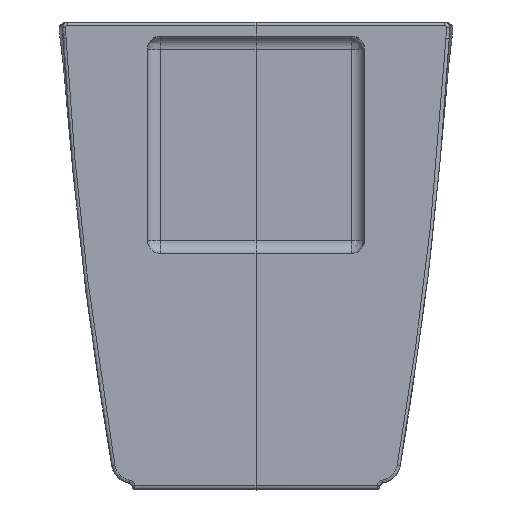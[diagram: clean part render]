
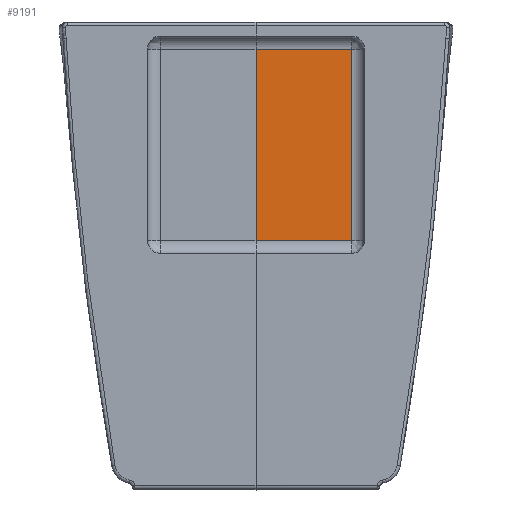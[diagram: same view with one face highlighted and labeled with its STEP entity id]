
A CAD part, top view. The second image highlights one B-rep face of the part: STEP entity #9191.
In plain terms, the highlighted planar face has unit normal (0, 0, 1) as drawn and (-1, 0, 0) by its records, which use the part's own axes.
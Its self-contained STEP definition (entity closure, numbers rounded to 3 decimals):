
#1966 = CARTESIAN_POINT ( 'NONE',  ( 100., 0., 0. ) ) ;
#2307 = DIRECTION ( 'NONE',  ( 0., 1., 0. ) ) ;
#2556 = AXIS2_PLACEMENT_3D ( 'NONE', #1966, #7556, #3157 ) ;
#3124 = CARTESIAN_POINT ( 'NONE',  ( 100., 0., 0. ) ) ;
#3157 = DIRECTION ( 'NONE',  ( 0., 0., -1. ) ) ;
#3195 = VERTEX_POINT ( 'NONE', #12148 ) ;
#3338 = EDGE_LOOP ( 'NONE', ( #14698, #13255, #8921, #4608 ) ) ;
#3371 = CARTESIAN_POINT ( 'NONE',  ( 100., 0., 405. ) ) ;
#3660 = CARTESIAN_POINT ( 'NONE',  ( 100., -88., 229. ) ) ;
#4238 = DIRECTION ( 'NONE',  ( 0., 0., 1. ) ) ;
#4608 = ORIENTED_EDGE ( 'NONE', *, *, #6596, .F. ) ;
#4615 = CARTESIAN_POINT ( 'NONE',  ( 100., 0., 405. ) ) ;
#5578 = LINE ( 'NONE', #4615, #14639 ) ;
#5730 = EDGE_CURVE ( 'NONE', #13018, #13676, #13447, .T. ) ;
#6178 = VERTEX_POINT ( 'NONE', #3371 ) ;
#6596 = EDGE_CURVE ( 'NONE', #13676, #6178, #13311, .T. ) ;
#7282 = VECTOR ( 'NONE', #14648, 1000. ) ;
#7556 = DIRECTION ( 'NONE',  ( 1., 0., 0. ) ) ;
#7766 = PLANE ( 'NONE',  #2556 ) ;
#7842 = EDGE_CURVE ( 'NONE', #3195, #13018, #10788, .T. ) ;
#8153 = EDGE_CURVE ( 'NONE', #3195, #6178, #5578, .T. ) ;
#8921 = ORIENTED_EDGE ( 'NONE', *, *, #8153, .T. ) ;
#9191 = ADVANCED_FACE ( 'NONE', ( #12079 ), #7766, .F. ) ;
#9684 = VECTOR ( 'NONE', #4238, 1000. ) ;
#9917 = CARTESIAN_POINT ( 'NONE',  ( 100., 0., 229. ) ) ;
#10714 = DIRECTION ( 'NONE',  ( 0., 0., -1. ) ) ;
#10788 = LINE ( 'NONE', #11845, #14632 ) ;
#11845 = CARTESIAN_POINT ( 'NONE',  ( 100., -88., 0. ) ) ;
#12079 = FACE_OUTER_BOUND ( 'NONE', #3338, .T. ) ;
#12148 = CARTESIAN_POINT ( 'NONE',  ( 100., -88., 405. ) ) ;
#13018 = VERTEX_POINT ( 'NONE', #3660 ) ;
#13255 = ORIENTED_EDGE ( 'NONE', *, *, #7842, .F. ) ;
#13311 = LINE ( 'NONE', #3124, #9684 ) ;
#13447 = LINE ( 'NONE', #9917, #7282 ) ;
#13676 = VERTEX_POINT ( 'NONE', #14102 ) ;
#14102 = CARTESIAN_POINT ( 'NONE',  ( 100., 0., 229. ) ) ;
#14632 = VECTOR ( 'NONE', #10714, 1000. ) ;
#14639 = VECTOR ( 'NONE', #2307, 1000. ) ;
#14648 = DIRECTION ( 'NONE',  ( 0., 1., 0. ) ) ;
#14698 = ORIENTED_EDGE ( 'NONE', *, *, #5730, .F. ) ;
